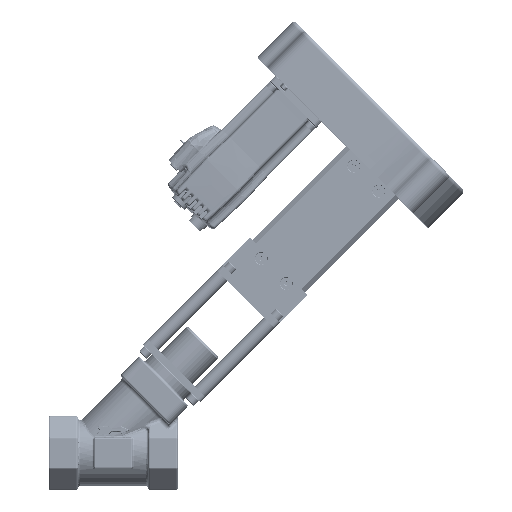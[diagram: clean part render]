
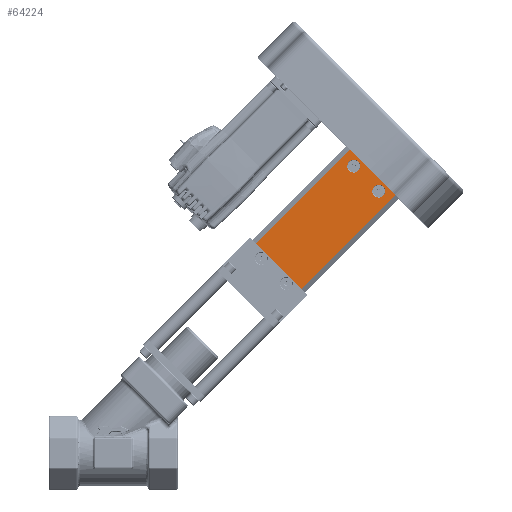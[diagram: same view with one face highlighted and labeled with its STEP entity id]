
A CAD part, top view. The second image highlights one B-rep face of the part: STEP entity #64224.
In plain terms, the highlighted planar face has unit normal (0, 0, 1).
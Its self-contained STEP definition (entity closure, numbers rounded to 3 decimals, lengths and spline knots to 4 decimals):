
#2148 = EDGE_LOOP ( 'NONE', ( #120154, #120157 ) ) ;
#2153 = EDGE_LOOP ( 'NONE', ( #120179, #120181, #120186, #120188 ) ) ;
#2154 = EDGE_LOOP ( 'NONE', ( #120173, #120176 ) ) ;
#2156 = EDGE_LOOP ( 'NONE', ( #120160, #120163 ) ) ;
#2158 = EDGE_LOOP ( 'NONE', ( #120167, #120170 ) ) ;
#6604 = AXIS2_PLACEMENT_3D ( 'NONE', #89537, #89540, #89542 ) ;
#6617 = AXIS2_PLACEMENT_3D ( 'NONE', #89596, #89599, #89602 ) ;
#6665 = AXIS2_PLACEMENT_3D ( 'NONE', #89867, #89871, #89875 ) ;
#6674 = AXIS2_PLACEMENT_3D ( 'NONE', #89920, #89924, #89928 ) ;
#6712 = AXIS2_PLACEMENT_3D ( 'NONE', #90343, #90347, #90350 ) ;
#6717 = AXIS2_PLACEMENT_3D ( 'NONE', #90359, #90361, #90363 ) ;
#6720 = AXIS2_PLACEMENT_3D ( 'NONE', #90371, #90374, #90377 ) ;
#6725 = AXIS2_PLACEMENT_3D ( 'NONE', #90385, #90389, #90393 ) ;
#10129 = VERTEX_POINT ( 'NONE', #99299 ) ;
#10130 = VERTEX_POINT ( 'NONE', #99300 ) ;
#10135 = VERTEX_POINT ( 'NONE', #99305 ) ;
#10136 = VERTEX_POINT ( 'NONE', #99306 ) ;
#10157 = VERTEX_POINT ( 'NONE', #99327 ) ;
#10158 = VERTEX_POINT ( 'NONE', #99328 ) ;
#10161 = VERTEX_POINT ( 'NONE', #99331 ) ;
#10162 = VERTEX_POINT ( 'NONE', #99332 ) ;
#10167 = VERTEX_POINT ( 'NONE', #99337 ) ;
#10168 = VERTEX_POINT ( 'NONE', #99338 ) ;
#10183 = VERTEX_POINT ( 'NONE', #99353 ) ;
#10184 = VERTEX_POINT ( 'NONE', #99354 ) ;
#64224 = ADVANCED_FACE ( 'NONE', ( #121940, #121947, #121942, #121945, #121944 ), #133747, .F. ) ;
#86368 = CIRCLE ( 'NONE', #6604, 0.2175 ) ;
#86389 = CIRCLE ( 'NONE', #6617, 0.2175 ) ;
#86456 = CIRCLE ( 'NONE', #6665, 0.0747 ) ;
#86467 = CIRCLE ( 'NONE', #6674, 0.0747 ) ;
#86488 = LINE ( 'NONE', #90020, #86501 ) ;
#86501 = VECTOR ( 'NONE', #90036, 39.3701 ) ;
#86554 = LINE ( 'NONE', #90150, #86567 ) ;
#86567 = VECTOR ( 'NONE', #90174, 39.3701 ) ;
#86630 = CIRCLE ( 'NONE', #6712, 0.2175 ) ;
#86634 = CIRCLE ( 'NONE', #6717, 0.2175 ) ;
#86637 = CIRCLE ( 'NONE', #6720, 0.0747 ) ;
#86639 = CIRCLE ( 'NONE', #6725, 0.0747 ) ;
#86642 = LINE ( 'NONE', #90366, #86647 ) ;
#86645 = LINE ( 'NONE', #90399, #86651 ) ;
#86647 = VECTOR ( 'NONE', #90370, 39.3701 ) ;
#86651 = VECTOR ( 'NONE', #90406, 39.3701 ) ;
#89537 = CARTESIAN_POINT ( 'NONE',  ( -0.6, 4.7, 1.25 ) ) ;
#89540 = DIRECTION ( 'NONE',  ( 0., 0., 1. ) ) ;
#89542 = DIRECTION ( 'NONE',  ( 1., 0., 0. ) ) ;
#89596 = CARTESIAN_POINT ( 'NONE',  ( 0.6, 4.7, 1.25 ) ) ;
#89599 = DIRECTION ( 'NONE',  ( 0., 0., 1. ) ) ;
#89602 = DIRECTION ( 'NONE',  ( 1., 0., 0. ) ) ;
#89867 = CARTESIAN_POINT ( 'NONE',  ( -0.6, 0.27, 1.25 ) ) ;
#89871 = DIRECTION ( 'NONE',  ( 0., 0., 1. ) ) ;
#89875 = DIRECTION ( 'NONE',  ( 1., 0., 0. ) ) ;
#89920 = CARTESIAN_POINT ( 'NONE',  ( 0.6, 0.27, 1.25 ) ) ;
#89924 = DIRECTION ( 'NONE',  ( 0., 0., 1. ) ) ;
#89928 = DIRECTION ( 'NONE',  ( 1., 0., 0. ) ) ;
#90020 = CARTESIAN_POINT ( 'NONE',  ( -1.25, 5., 1.25 ) ) ;
#90036 = DIRECTION ( 'NONE',  ( 1., 0., 0. ) ) ;
#90150 = CARTESIAN_POINT ( 'NONE',  ( -1.25, 0., 1.25 ) ) ;
#90174 = DIRECTION ( 'NONE',  ( 1., 0., 0. ) ) ;
#90343 = CARTESIAN_POINT ( 'NONE',  ( -0.6, 4.7, 1.25 ) ) ;
#90347 = DIRECTION ( 'NONE',  ( 0., 0., 1. ) ) ;
#90350 = DIRECTION ( 'NONE',  ( 1., 0., 0. ) ) ;
#90359 = CARTESIAN_POINT ( 'NONE',  ( 0.6, 4.7, 1.25 ) ) ;
#90361 = DIRECTION ( 'NONE',  ( 0., 0., 1. ) ) ;
#90363 = DIRECTION ( 'NONE',  ( 1., 0., 0. ) ) ;
#90366 = CARTESIAN_POINT ( 'NONE',  ( 1.1, 5., 1.25 ) ) ;
#90370 = DIRECTION ( 'NONE',  ( 0., 1., 0. ) ) ;
#90371 = CARTESIAN_POINT ( 'NONE',  ( -0.6, 0.27, 1.25 ) ) ;
#90374 = DIRECTION ( 'NONE',  ( 0., 0., 1. ) ) ;
#90377 = DIRECTION ( 'NONE',  ( 1., 0., 0. ) ) ;
#90385 = CARTESIAN_POINT ( 'NONE',  ( 0.6, 0.27, 1.25 ) ) ;
#90389 = DIRECTION ( 'NONE',  ( 0., 0., 1. ) ) ;
#90393 = DIRECTION ( 'NONE',  ( 1., 0., 0. ) ) ;
#90399 = CARTESIAN_POINT ( 'NONE',  ( -1.1, 5., 1.25 ) ) ;
#90406 = DIRECTION ( 'NONE',  ( 0., -1., 0. ) ) ;
#99299 = CARTESIAN_POINT ( 'NONE',  ( -0.8175, 4.7, 1.25 ) ) ;
#99300 = CARTESIAN_POINT ( 'NONE',  ( -0.3825, 4.7, 1.25 ) ) ;
#99305 = CARTESIAN_POINT ( 'NONE',  ( 0.3825, 4.7, 1.25 ) ) ;
#99306 = CARTESIAN_POINT ( 'NONE',  ( 0.8175, 4.7, 1.25 ) ) ;
#99327 = CARTESIAN_POINT ( 'NONE',  ( -0.6747, 0.27, 1.25 ) ) ;
#99328 = CARTESIAN_POINT ( 'NONE',  ( -0.5253, 0.27, 1.25 ) ) ;
#99331 = CARTESIAN_POINT ( 'NONE',  ( 0.5253, 0.27, 1.25 ) ) ;
#99332 = CARTESIAN_POINT ( 'NONE',  ( 0.6747, 0.27, 1.25 ) ) ;
#99337 = CARTESIAN_POINT ( 'NONE',  ( -1.1, 5., 1.25 ) ) ;
#99338 = CARTESIAN_POINT ( 'NONE',  ( 1.1, 5., 1.25 ) ) ;
#99353 = CARTESIAN_POINT ( 'NONE',  ( -1.1, 0., 1.25 ) ) ;
#99354 = CARTESIAN_POINT ( 'NONE',  ( 1.1, 0., 1.25 ) ) ;
#111045 = EDGE_CURVE ( 'NONE', #10129, #10130, #86368, .T. ) ;
#111052 = EDGE_CURVE ( 'NONE', #10135, #10136, #86389, .T. ) ;
#111075 = EDGE_CURVE ( 'NONE', #10157, #10158, #86456, .T. ) ;
#111079 = EDGE_CURVE ( 'NONE', #10161, #10162, #86467, .T. ) ;
#111089 = EDGE_CURVE ( 'NONE', #10167, #10168, #86488, .T. ) ;
#111103 = EDGE_CURVE ( 'NONE', #10183, #10184, #86554, .T. ) ;
#111119 = EDGE_CURVE ( 'NONE', #10130, #10129, #86630, .T. ) ;
#111120 = EDGE_CURVE ( 'NONE', #10136, #10135, #86634, .T. ) ;
#111121 = EDGE_CURVE ( 'NONE', #10158, #10157, #86637, .T. ) ;
#111122 = EDGE_CURVE ( 'NONE', #10162, #10161, #86639, .T. ) ;
#111123 = EDGE_CURVE ( 'NONE', #10184, #10168, #86642, .T. ) ;
#111124 = EDGE_CURVE ( 'NONE', #10167, #10183, #86645, .T. ) ;
#120154 = ORIENTED_EDGE ( 'NONE', *, *, #111119, .F. ) ;
#120157 = ORIENTED_EDGE ( 'NONE', *, *, #111045, .F. ) ;
#120160 = ORIENTED_EDGE ( 'NONE', *, *, #111120, .F. ) ;
#120163 = ORIENTED_EDGE ( 'NONE', *, *, #111052, .F. ) ;
#120167 = ORIENTED_EDGE ( 'NONE', *, *, #111121, .F. ) ;
#120170 = ORIENTED_EDGE ( 'NONE', *, *, #111075, .F. ) ;
#120173 = ORIENTED_EDGE ( 'NONE', *, *, #111122, .F. ) ;
#120176 = ORIENTED_EDGE ( 'NONE', *, *, #111079, .F. ) ;
#120179 = ORIENTED_EDGE ( 'NONE', *, *, #111103, .T. ) ;
#120181 = ORIENTED_EDGE ( 'NONE', *, *, #111123, .T. ) ;
#120186 = ORIENTED_EDGE ( 'NONE', *, *, #111089, .F. ) ;
#120188 = ORIENTED_EDGE ( 'NONE', *, *, #111124, .T. ) ;
#121940 = FACE_BOUND ( 'NONE', #2148, .T. ) ;
#121942 = FACE_BOUND ( 'NONE', #2158, .T. ) ;
#121944 = FACE_OUTER_BOUND ( 'NONE', #2153, .T. ) ;
#121945 = FACE_BOUND ( 'NONE', #2154, .T. ) ;
#121947 = FACE_BOUND ( 'NONE', #2156, .T. ) ;
#126297 = AXIS2_PLACEMENT_3D ( 'NONE', #133745, #133744, #133750 ) ;
#133744 = DIRECTION ( 'NONE',  ( 0., 0., -1. ) ) ;
#133745 = CARTESIAN_POINT ( 'NONE',  ( -1.25, 5., 1.25 ) ) ;
#133747 = PLANE ( 'NONE',  #126297 ) ;
#133750 = DIRECTION ( 'NONE',  ( -1., 0., 0. ) ) ;
